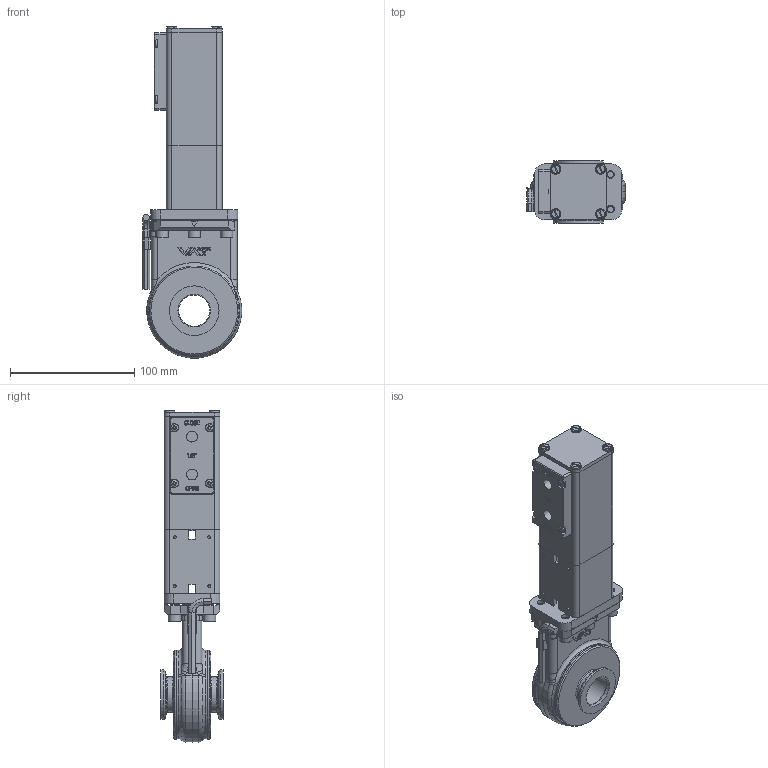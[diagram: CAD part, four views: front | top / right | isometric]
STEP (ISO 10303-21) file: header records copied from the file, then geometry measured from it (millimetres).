
FILE_DESCRIPTION(/* description */ (''),/* implementation_level */ '2;1');
FILE_NAME(/* name */ '1101758644_203.stp',/* time_stamp */ '2017-09-27T13:11:59+02:00',/* author */ (''),/* organization */ (''),/* preprocessor_version */ 'ST-DEVELOPER v16',/* originating_system */ 'SIEMENS PLM Software NX 11.0',/* authorisation */ '');
FILE_SCHEMA (('AP203_CONFIGURATION_CONTROLLED_3D_DESIGN_OF_MECHANICAL_PARTS_AND_ASSEMBLIES_MIM_LF { 1 0 10303 403 2 1 2}'));
Length unit declared in the file: millimetre
Products named in the file (25): 63150-01_28998ID; 63150-01_28997ID; 63152-01.4_29020ID; 63172-01; 69852-01; 87466-01.1; n-6024-526; 101400-01.2; 66490-01.2; 66238-02.1; 252066.1; 252080.1; 66481-01.2; 70613-01.2; 69968-01.1; 73280-01_1.1; 228772.1; 318865_MODEL; 63170-r1; 784789_NX-ARRAGMNTMassbild; 792925; 777465_NX-ARRAGMNTMassbild; 777439_NX-ARRAGMNTMassbild; 777461_NX-ARRAGMNTMassbild; 326709
Assembly tree (39 placements, depth 5):
  326709
    777461_NX-ARRAGMNTMassbild
      777439_NX-ARRAGMNTMassbild
        777465_NX-ARRAGMNTMassbild
          63152-01.4_29020ID
      70613-01.2
      66481-01.2
      252080.1
      252066.1  x4
      66238-02.1  x4
      66490-01.2
    228772.1  x6
    73280-01_1.1
    69968-01.1
    792925
      101400-01.2
      n-6024-526  x4
    784789_NX-ARRAGMNTMassbild
      87466-01.1  x2
      63170-r1
        318865_MODEL
          63150-01_28997ID
          63150-01_28998ID
      69852-01
      63172-01
Bounding box: 79.97 x 50 x 267.21 mm (x, y, z)
Volume: 335914 mm3; surface area: 177577.9 mm2
Topology: 44 solids, 44 shells, 1065 faces, 2610 edges, 1704 vertices
Faces by surface type: plane 636, cylinder 246, extrusion 52, cone 45, bspline 42, torus 40, sphere 4
Full cylindrical faces by diameter (mm): 2 x2, 2.5 x8, 3 x8, 3.3 x12, 3.4 x2, 3.485 x4, 4 x12, 4.15 x4, 4.65 x4, 4.96 x6, 5 x6, 5.4 x4, 5.6 x8, 6 x22, 6.2 x6, 8.1 x4, 8.806 x2, 10 x6, 10.008 x1, 18 x2, 22.25 x2, 25.1 x2, 26.3 x2, 28.75 x2, 35.5 x1, 37.2 x1, 39.7 x1, 39.92 x2, 40.15 x2, 42.95 x1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
Entity records: 31789 total; most frequent: CARTESIAN_POINT 7843, ORIENTED_EDGE 3908, DIRECTION 3565, EDGE_CURVE 1954, VERTEX_POINT 1355, AXIS2_PLACEMENT_3D 1238, EDGE_LOOP 1099, VECTOR 1089
